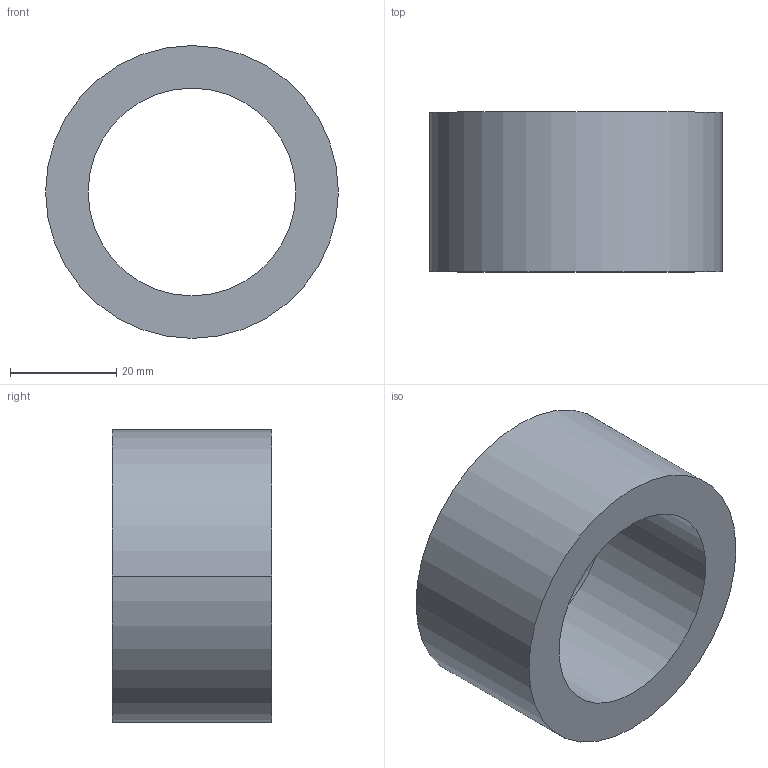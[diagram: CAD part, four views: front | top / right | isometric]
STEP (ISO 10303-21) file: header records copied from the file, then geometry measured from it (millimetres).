
FILE_DESCRIPTION (( 'STEP AP203' ), '1' );
FILE_NAME ('30800.WPP55L39.0.step', '2019-01-23T22:55:07', ( '' ), ( '' ), 'SwSTEP 2.0', 'SolidWorks 2017', '' );
FILE_SCHEMA (( 'CONFIG_CONTROL_DESIGN' ));
Length unit declared in the file: millimetre
Products named in the file (1): 30800.WPP55L39.0
Bounding box: 55 x 30 x 55 mm (x, y, z)
Volume: 35102.2 mm3; surface area: 11043.2 mm2
Topology: 1 solids, 1 shells, 8 faces, 16 edges, 10 vertices
Faces by surface type: cylinder 4, torus 2, plane 2
Entity records: 297 total; most frequent: DIRECTION 46, CARTESIAN_POINT 35, ORIENTED_EDGE 32, AXIS2_PLACEMENT_3D 21, EDGE_CURVE 16, CIRCLE 12, VERTEX_POINT 10, EDGE_LOOP 10
